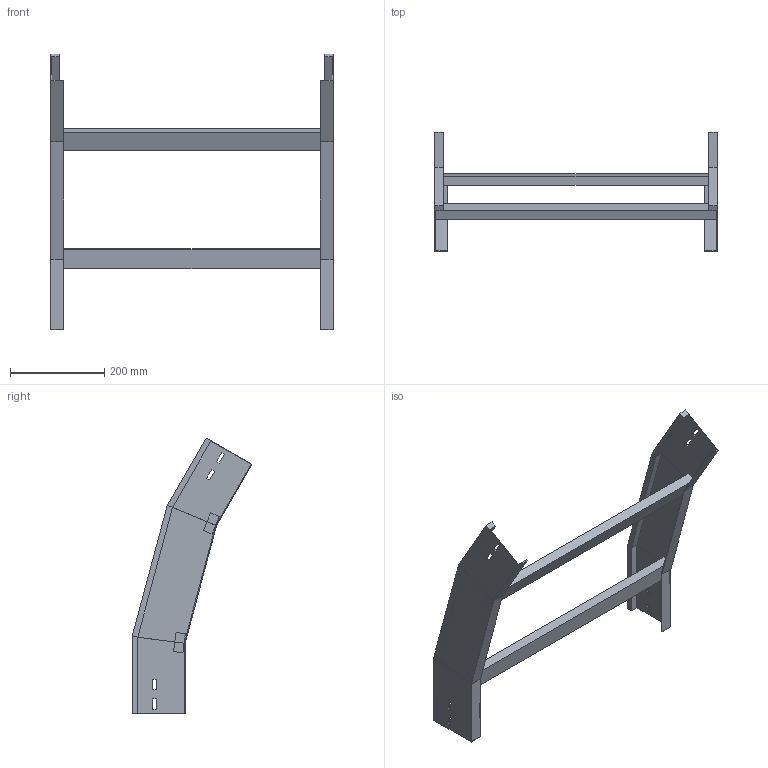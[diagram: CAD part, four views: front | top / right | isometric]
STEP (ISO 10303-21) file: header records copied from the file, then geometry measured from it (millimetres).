
FILE_DESCRIPTION (( 'STEP AP214' ), '1' );
FILE_NAME ('35B5J600.step', '2025-02-21T14:47:31', ( '' ), ( '' ), 'SwSTEP 2.0', 'SolidWorks 2023', '' );
FILE_SCHEMA (( 'AUTOMOTIVE_DESIGN' ));
Length unit declared in the file: millimetre
Products named in the file (3): LONGH.DISCESA_30°_H112.5_R500; TRAVERSINO_600; 35B5J600
Assembly tree (5 placements, depth 2):
  35B5J600
    LONGH.DISCESA_30°_H112.5_R500  x2
    TRAVERSINO_600  x3
Bounding box: 600 x 254.53 x 586.33 mm (x, y, z)
Volume: 2002840.7 mm3; surface area: 586446.8 mm2
Topology: 5 solids, 5 shells, 102 faces, 244 edges, 152 vertices
Faces by surface type: plane 102
Entity records: 1480 total; most frequent: CARTESIAN_POINT 244, ORIENTED_EDGE 232, DIRECTION 228, EDGE_CURVE 116, VECTOR 116, LINE 116, VERTEX_POINT 72, AXIS2_PLACEMENT_3D 56
